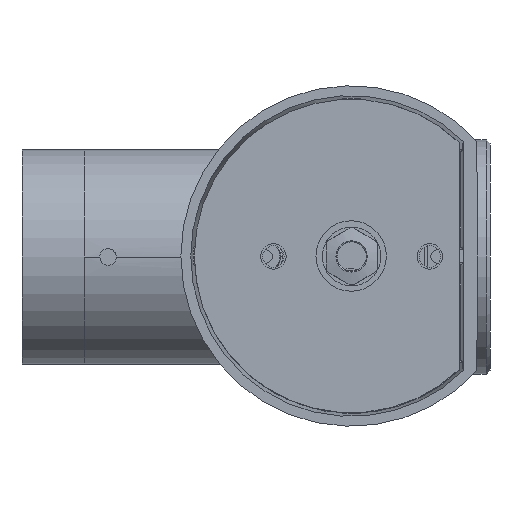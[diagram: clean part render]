
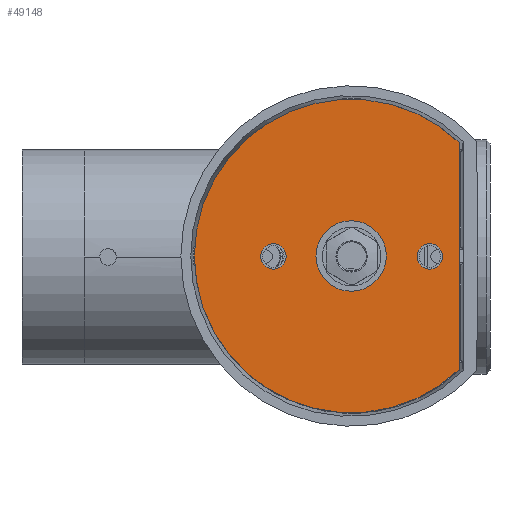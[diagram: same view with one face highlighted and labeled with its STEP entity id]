
A CAD part, front view. The second image highlights one B-rep face of the part: STEP entity #49148.
In plain terms, the highlighted planar face has unit normal (0, -1, 0).
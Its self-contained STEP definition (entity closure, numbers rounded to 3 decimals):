
#48948=CARTESIAN_POINT('',(-11.817,-64.12,-2.883));
#48949=DIRECTION('',(0.,1.,0.));
#48950=DIRECTION('',(0.688,0.,-0.725));
#48951=AXIS2_PLACEMENT_3D('',#48948,#48949,#48950);
#48953=CARTESIAN_POINT('',(-11.817,-64.12,-2.883));
#48954=DIRECTION('',(0.,1.,0.));
#48955=DIRECTION('',(-1.,0.,0.));
#48956=AXIS2_PLACEMENT_3D('',#48953,#48954,#48955);
#48958=DIRECTION('',(0.,0.,-1.));
#48959=VECTOR('',#48958,58.181);
#48960=CARTESIAN_POINT('',(15.783,-64.12,26.207));
#48961=LINE('',#48960,#48959);
#48962=CARTESIAN_POINT('',(-31.7,-64.12,-3.));
#48963=DIRECTION('',(0.,-1.,0.));
#48964=DIRECTION('',(-1.,0.,0.));
#48965=AXIS2_PLACEMENT_3D('',#48962,#48963,#48964);
#48967=CARTESIAN_POINT('',(-31.7,-64.12,-3.));
#48968=DIRECTION('',(0.,-1.,0.));
#48969=DIRECTION('',(1.,0.,0.));
#48970=AXIS2_PLACEMENT_3D('',#48967,#48968,#48969);
#48972=CARTESIAN_POINT('',(8.3,-64.12,-3.));
#48973=DIRECTION('',(0.,-1.,0.));
#48974=DIRECTION('',(-1.,0.,0.));
#48975=AXIS2_PLACEMENT_3D('',#48972,#48973,#48974);
#48977=CARTESIAN_POINT('',(8.3,-64.12,-3.));
#48978=DIRECTION('',(0.,-1.,0.));
#48979=DIRECTION('',(1.,0.,0.));
#48980=AXIS2_PLACEMENT_3D('',#48977,#48978,#48979);
#48982=CARTESIAN_POINT('',(-11.817,-64.12,-2.883));
#48983=DIRECTION('',(0.,-1.,0.));
#48984=DIRECTION('',(-1.,0.,0.));
#48985=AXIS2_PLACEMENT_3D('',#48982,#48983,#48984);
#48987=CARTESIAN_POINT('',(-11.817,-64.12,-2.883));
#48988=DIRECTION('',(0.,-1.,0.));
#48989=DIRECTION('',(1.,0.,0.));
#48990=AXIS2_PLACEMENT_3D('',#48987,#48988,#48989);
#49036=CARTESIAN_POINT('',(-2.817,-64.12,-2.883));
#49037=VERTEX_POINT('',#49036);
#49038=CARTESIAN_POINT('',(-20.817,-64.12,-2.883));
#49039=VERTEX_POINT('',#49038);
#49040=CARTESIAN_POINT('',(-51.917,-64.12,-2.883));
#49041=CARTESIAN_POINT('',(15.783,-64.12,26.207));
#49042=VERTEX_POINT('',#49040);
#49043=VERTEX_POINT('',#49041);
#49044=CARTESIAN_POINT('',(15.783,-64.12,-31.974));
#49045=VERTEX_POINT('',#49044);
#49046=CARTESIAN_POINT('',(-34.95,-64.12,-3.));
#49047=CARTESIAN_POINT('',(-28.45,-64.12,-3.));
#49048=VERTEX_POINT('',#49046);
#49049=VERTEX_POINT('',#49047);
#49050=CARTESIAN_POINT('',(5.05,-64.12,-3.));
#49051=CARTESIAN_POINT('',(11.55,-64.12,-3.));
#49052=VERTEX_POINT('',#49050);
#49053=VERTEX_POINT('',#49051);
#49120=CARTESIAN_POINT('',(0.,-64.12,0.));
#49121=DIRECTION('',(0.,-1.,0.));
#49122=DIRECTION('',(1.,0.,0.));
#49123=AXIS2_PLACEMENT_3D('',#49120,#49121,#49122);
#49124=PLANE('',#49123);
#49125=ORIENTED_EDGE('',*,*,#49100,.T.);
#49126=ORIENTED_EDGE('',*,*,#49098,.T.);
#49127=ORIENTED_EDGE('',*,*,#49114,.T.);
#49128=EDGE_LOOP('',(#49125,#49126,#49127));
#49129=FACE_OUTER_BOUND('',#49128,.F.);
#49131=ORIENTED_EDGE('',*,*,#49130,.T.);
#49133=ORIENTED_EDGE('',*,*,#49132,.T.);
#49134=EDGE_LOOP('',(#49131,#49133));
#49135=FACE_BOUND('',#49134,.F.);
#49137=ORIENTED_EDGE('',*,*,#49136,.T.);
#49139=ORIENTED_EDGE('',*,*,#49138,.T.);
#49140=EDGE_LOOP('',(#49137,#49139));
#49141=FACE_BOUND('',#49140,.F.);
#49143=ORIENTED_EDGE('',*,*,#49142,.T.);
#49145=ORIENTED_EDGE('',*,*,#49144,.T.);
#49146=EDGE_LOOP('',(#49143,#49145));
#49147=FACE_BOUND('',#49146,.F.);
#49148=ADVANCED_FACE('',(#49129,#49135,#49141,#49147),#49124,.T.);
#48952=CIRCLE('',#48951,40.1);
#48957=CIRCLE('',#48956,40.1);
#48966=CIRCLE('',#48965,3.25);
#48971=CIRCLE('',#48970,3.25);
#48976=CIRCLE('',#48975,3.25);
#48981=CIRCLE('',#48980,3.25);
#48986=CIRCLE('',#48985,9.);
#48991=CIRCLE('',#48990,9.);
#49098=EDGE_CURVE('',#49042,#49043,#48957,.T.);
#49100=EDGE_CURVE('',#49045,#49042,#48952,.T.);
#49114=EDGE_CURVE('',#49043,#49045,#48961,.T.);
#49130=EDGE_CURVE('',#49048,#49049,#48966,.T.);
#49132=EDGE_CURVE('',#49049,#49048,#48971,.T.);
#49136=EDGE_CURVE('',#49052,#49053,#48976,.T.);
#49138=EDGE_CURVE('',#49053,#49052,#48981,.T.);
#49142=EDGE_CURVE('',#49039,#49037,#48986,.T.);
#49144=EDGE_CURVE('',#49037,#49039,#48991,.T.);
